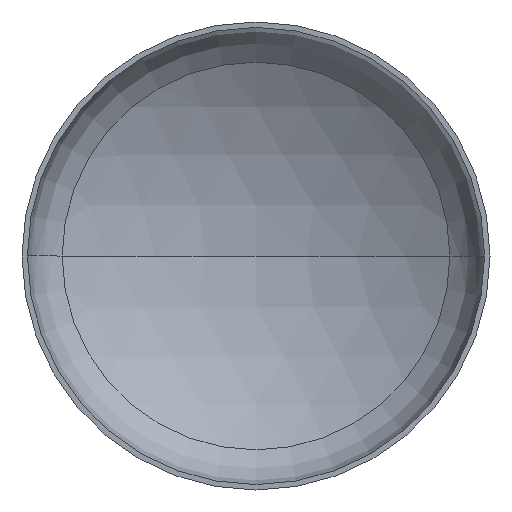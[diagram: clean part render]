
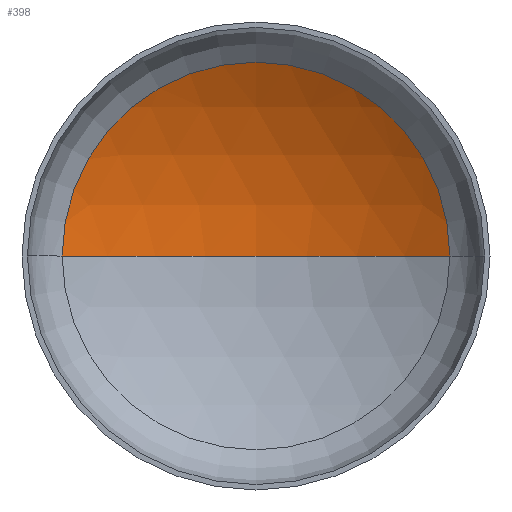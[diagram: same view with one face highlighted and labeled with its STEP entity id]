
A CAD part, front view. The second image highlights one B-rep face of the part: STEP entity #398.
In plain terms, the highlighted spherical face has radius 3040 mm.
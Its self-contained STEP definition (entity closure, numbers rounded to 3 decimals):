
#3 = VERTEX_POINT ( 'NONE', #373 ) ;
#4 = ORIENTED_EDGE ( 'NONE', *, *, #350, .T. ) ;
#18 = EDGE_LOOP ( 'NONE', ( #79, #34, #4 ) ) ;
#19 = AXIS2_PLACEMENT_3D ( 'NONE', #199, #140, #181 ) ;
#27 = AXIS2_PLACEMENT_3D ( 'NONE', #268, #171, #39 ) ;
#31 = CIRCLE ( 'NONE', #27, 1573.866 ) ;
#34 = ORIENTED_EDGE ( 'NONE', *, *, #353, .T. ) ;
#39 = DIRECTION ( 'NONE',  ( 1., 0., 0. ) ) ;
#63 = VERTEX_POINT ( 'NONE', #264 ) ;
#79 = ORIENTED_EDGE ( 'NONE', *, *, #393, .F. ) ;
#113 = VERTEX_POINT ( 'NONE', #351 ) ;
#135 = DIRECTION ( 'NONE',  ( 0., 0., 1. ) ) ;
#140 = DIRECTION ( 'NONE',  ( 0., 0., -1. ) ) ;
#162 = SPHERICAL_SURFACE ( 'NONE', #218, 3040. ) ;
#171 = DIRECTION ( 'NONE',  ( 0., -1., 0. ) ) ;
#181 = DIRECTION ( 'NONE',  ( -1., 0., 0. ) ) ;
#183 = AXIS2_PLACEMENT_3D ( 'NONE', #285, #135, #311 ) ;
#199 = CARTESIAN_POINT ( 'NONE',  ( 0., -1960.377, 0. ) ) ;
#202 = DIRECTION ( 'NONE',  ( 0., 0., -1. ) ) ;
#218 = AXIS2_PLACEMENT_3D ( 'NONE', #399, #202, #364 ) ;
#264 = CARTESIAN_POINT ( 'NONE',  ( -1573.866, 640.497, 0. ) ) ;
#268 = CARTESIAN_POINT ( 'NONE',  ( 0., 640.497, 0. ) ) ;
#276 = FACE_OUTER_BOUND ( 'NONE', #18, .T. ) ;
#284 = CIRCLE ( 'NONE', #183, 3040. ) ;
#285 = CARTESIAN_POINT ( 'NONE',  ( 0., -1960.377, 0. ) ) ;
#311 = DIRECTION ( 'NONE',  ( 1., 0., 0. ) ) ;
#350 = EDGE_CURVE ( 'NONE', #3, #63, #31, .T. ) ;
#351 = CARTESIAN_POINT ( 'NONE',  ( 0., 1079.623, 0. ) ) ;
#353 = EDGE_CURVE ( 'NONE', #113, #3, #369, .T. ) ;
#364 = DIRECTION ( 'NONE',  ( -1., 0., 0. ) ) ;
#369 = CIRCLE ( 'NONE', #19, 3040. ) ;
#373 = CARTESIAN_POINT ( 'NONE',  ( 1573.866, 640.497, 0. ) ) ;
#393 = EDGE_CURVE ( 'NONE', #113, #63, #284, .T. ) ;
#398 = ADVANCED_FACE ( 'NONE', ( #276 ), #162, .F. ) ;
#399 = CARTESIAN_POINT ( 'NONE',  ( 0., -1960.377, 0. ) ) ;
